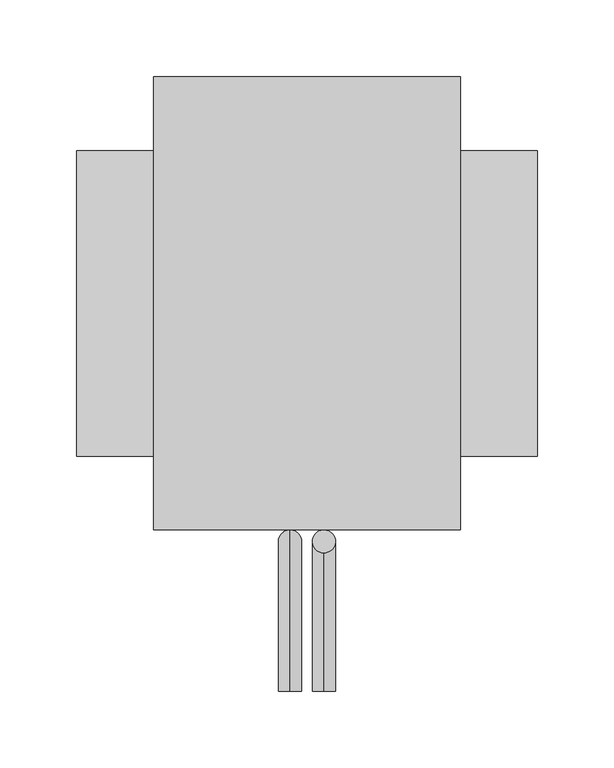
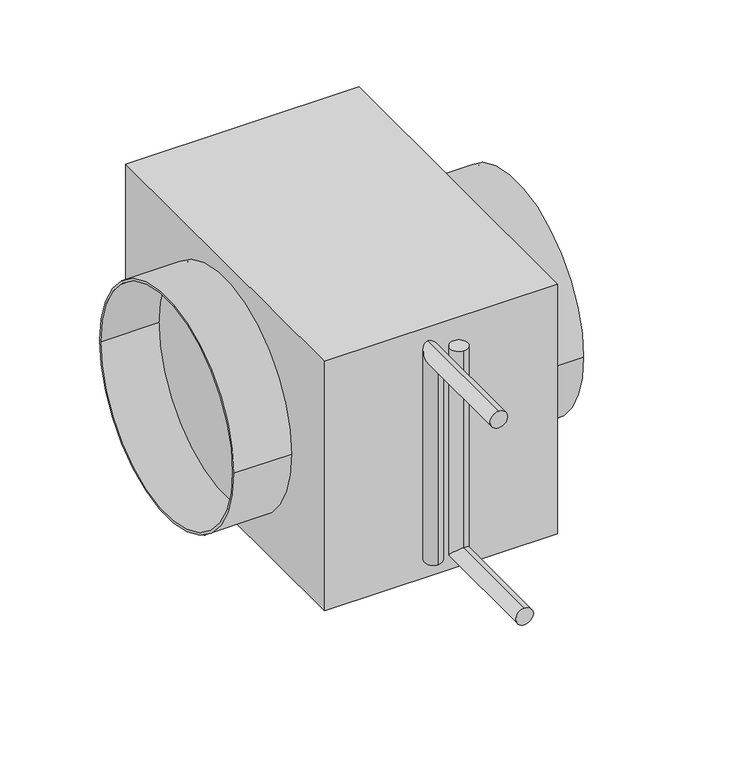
"""IFC4 building model written with IfcOpenShell, lengths in millimetres: proxy geometry, СВ_ВоздухонагревательВодяной_КанальныйКруглый_DN160-315_SKH-W : SKH-W-200."""

from ifc_helpers import new_model, si_unit, point, frame, origin, origin_2d, place, context, project, spatial, polyline, circle_curve, ellipse_curve, trimmed, segment, composite_curve, outline, extrude, source, transform, mapped, element, save
from ifc_brep_helpers import plane_surface, cylinder_surface, advanced_brep


def mechanical_equipment_5011dd88(model_context):
    return source(origin(), model_context, "Body", "SolidModel", [
        advanced_brep(
        [(11.0, -252.5, -100.5), (11.0, -252.5, -85.5), (11.0, -147.5, -100.5), (11.0, -162.5, -85.5), (11.0, -147.5, 93.0), (11.0, -162.5, 93.0)],
        [
            (0, 1, circle_curve(frame((11.0, -252.5, -93.0), z_axis=(0.0, -1.0, 0.0), x_axis=(0.0, 0.0, 1.0)), 7.5)),
            (1, 0, circle_curve(frame((11.0, -252.5, -93.0), z_axis=(0.0, -1.0, 0.0), x_axis=(0.0, 0.0, 1.0)), 7.5)),
            (0, 2),
            (2, 3, ellipse_curve(frame((11.0, -155.0, -93.0), z_axis=(0.0, -0.7071067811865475, -0.7071067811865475), x_axis=(0.0, -0.7071067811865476, 0.7071067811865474)), 10.6066017, 7.5)),
            (3, 1),
            (3, 2, ellipse_curve(frame((11.0, -155.0, -93.0), z_axis=(0.0, -0.7071067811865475, -0.7071067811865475), x_axis=(0.0, -0.7071067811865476, 0.7071067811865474)), 10.6066017, 7.5)),
            (4, 5, circle_curve(frame((11.0, -155.0, 93.0), z_axis=(0.0, 0.0, 1.0), x_axis=(0.0, -1.0, 0.0)), 7.5)),
            (5, 4, circle_curve(frame((11.0, -155.0, 93.0), z_axis=(0.0, 0.0, 1.0), x_axis=(0.0, -1.0, 0.0)), 7.5)),
            (2, 4),
            (5, 3),
        ],
        [
            plane_surface(frame((11.0, -252.5, -93.0), z_axis=(0.0, -1.0, 0.0), x_axis=(1.0, 0.0, 0.0))),
            cylinder_surface(frame((11.0, -252.5, -93.0), z_axis=(0.0, -1.0, 0.0), x_axis=(0.0, 0.0, 1.0)), 7.5),
            plane_surface(frame((11.0, -155.0, 93.0), z_axis=(0.0, 0.0, 1.0), x_axis=(1.0, 0.0, 0.0))),
            cylinder_surface(frame((11.0, -155.0, -93.0), z_axis=(0.0, 0.0, -1.0), x_axis=(0.0, -1.0, 0.0)), 7.5),
        ],
        [
            (0, [[1, 2]]),
            (1, [[-1, 3, 4, 5]]),
            (1, [[-2, -5, 6, -3]]),
            (2, [[7, 8]]),
            (3, [[-4, 9, -8, 10]]),
            (3, [[-6, -10, -7, -9]]),
        ],
    ),
        advanced_brep(
        [(-11.0, -252.5, 85.5), (-11.0, -252.5, 100.5), (-11.0, -162.5, 85.5), (-11.0, -147.5, 100.5), (-11.0, -162.5, -93.0), (-11.0, -147.5, -93.0)],
        [
            (0, 1, circle_curve(frame((-11.0, -252.5, 93.0), z_axis=(0.0, -1.0, 0.0), x_axis=(0.0, 0.0, 1.0)), 7.5)),
            (1, 0, circle_curve(frame((-11.0, -252.5, 93.0), z_axis=(0.0, -1.0, 0.0), x_axis=(0.0, 0.0, 1.0)), 7.5)),
            (0, 2),
            (2, 3, ellipse_curve(frame((-11.0, -155.0, 93.0), z_axis=(0.0, -0.7071067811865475, 0.7071067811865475), x_axis=(0.0, -0.7071067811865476, -0.7071067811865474)), 10.6066017, 7.5)),
            (3, 1),
            (3, 2, ellipse_curve(frame((-11.0, -155.0, 93.0), z_axis=(0.0, -0.7071067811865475, 0.7071067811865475), x_axis=(0.0, -0.7071067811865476, -0.7071067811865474)), 10.6066017, 7.5)),
            (4, 5, circle_curve(frame((-11.0, -155.0, -93.0), z_axis=(0.0, 0.0, -1.0), x_axis=(0.0, 1.0, 0.0)), 7.5)),
            (5, 4, circle_curve(frame((-11.0, -155.0, -93.0), z_axis=(0.0, 0.0, -1.0), x_axis=(0.0, 1.0, 0.0)), 7.5)),
            (2, 4),
            (5, 3),
        ],
        [
            plane_surface(frame((-11.0, -252.5, 93.0), z_axis=(0.0, -1.0, 0.0), x_axis=(1.0, 0.0, 0.0))),
            cylinder_surface(frame((-11.0, -252.5, 93.0), z_axis=(0.0, -1.0, 0.0), x_axis=(0.0, 0.0, 1.0)), 7.5),
            plane_surface(frame((-11.0, -155.0, -93.0), z_axis=(0.0, 0.0, -1.0), x_axis=(1.0, 0.0, 0.0))),
            cylinder_surface(frame((-11.0, -155.0, 93.0), z_axis=(0.0, 0.0, 1.0), x_axis=(0.0, 1.0, 0.0)), 7.5),
        ],
        [
            (0, [[1, 2]]),
            (1, [[-1, 3, 4, 5]]),
            (1, [[-2, -5, 6, -3]]),
            (2, [[7, 8]]),
            (3, [[-4, 9, -8, 10]]),
            (3, [[-6, -10, -7, -9]]),
        ],
    ),
        extrude(outline(polyline([(100.0, -147.5), (-100.0, -147.5), (-100.0, 147.5), (100.0, 147.5), (100.0, -147.5)])), frame((0.0, 0.0, -113.0), z_axis=(0.0, 0.0, 1.0), x_axis=(1.0, 0.0, 0.0)), (0.0, 0.0, 1.0), 226.0),
        extrude(outline(composite_curve([segment(trimmed(circle_curve(origin_2d(), 99.5), [point((-99.5, 0.0))], [point((99.5, 0.0))], False, "CARTESIAN"), True, "CONTINUOUS"), segment(trimmed(circle_curve(origin_2d(), 99.5), [point((99.5, 0.0))], [point((-99.5, 0.0))], False, "CARTESIAN"), True, "CONTINUOUS")], self_intersect=False), holes=[composite_curve([segment(trimmed(circle_curve(origin_2d(), 97.5), [point((-97.5, 0.0))], [point((97.5, 0.0))], True, "CARTESIAN"), True, "CONTINUOUS"), segment(trimmed(circle_curve(origin_2d(), 97.5), [point((97.5, 0.0))], [point((-97.5, 0.0))], True, "CARTESIAN"), True, "CONTINUOUS")], self_intersect=False)]), frame((-150.0, 0.0, 0.0), z_axis=(1.0, 0.0, 0.0), x_axis=(0.0, 1.0, 0.0)), (0.0, 0.0, 1.0), 50.0),
        extrude(outline(composite_curve([segment(trimmed(circle_curve(origin_2d(), 99.5), [point((-99.5, 0.0))], [point((99.5, 0.0))], False, "CARTESIAN"), True, "CONTINUOUS"), segment(trimmed(circle_curve(origin_2d(), 99.5), [point((99.5, 0.0))], [point((-99.5, 0.0))], False, "CARTESIAN"), True, "CONTINUOUS")], self_intersect=False), holes=[composite_curve([segment(trimmed(circle_curve(origin_2d(), 97.5), [point((-97.5, 0.0))], [point((97.5, 0.0))], True, "CARTESIAN"), True, "CONTINUOUS"), segment(trimmed(circle_curve(origin_2d(), 97.5), [point((97.5, 0.0))], [point((-97.5, 0.0))], True, "CARTESIAN"), True, "CONTINUOUS")], self_intersect=False)]), frame((100.0, 0.0, 0.0), z_axis=(1.0, 0.0, 0.0), x_axis=(0.0, 1.0, 0.0)), (0.0, 0.0, 1.0), 50.0),
    ])


if __name__ == "__main__":
    model = new_model("IFC4")
    model_context = context("Model", 3, world=origin())
    ifc_project = project(units=[si_unit("LENGTHUNIT", "METRE", prefix="MILLI")], contexts=[model_context])
    site = spatial("IfcSite", under=ifc_project)
    building = spatial("IfcBuilding", under=site)
    placement = place(None, origin())
    mechanical_equipment_shape = mechanical_equipment_5011dd88(model_context)
    element("IfcBuildingElementProxy", 1, Name="СВ_ВоздухонагревательВодяной_КанальныйКруглый_DN160-315_SKH-W : SKH-W-200", ObjectType="СВ_ВоздухонагревательВодяной_КанальныйКруглый_DN160-315_SKH-W : SKH-W-200", at=placement, inside=building, context=model_context, shape_type="MappedRepresentation", body=[
        mapped(mechanical_equipment_shape, transform((0.0, 0.0, 0.0), x_axis=(1.0, 0.0, 0.0), y_axis=(0.0, 1.0, 0.0), z_axis=(0.0, 0.0, 1.0))),
    ])
    save(model, "model.ifc")
